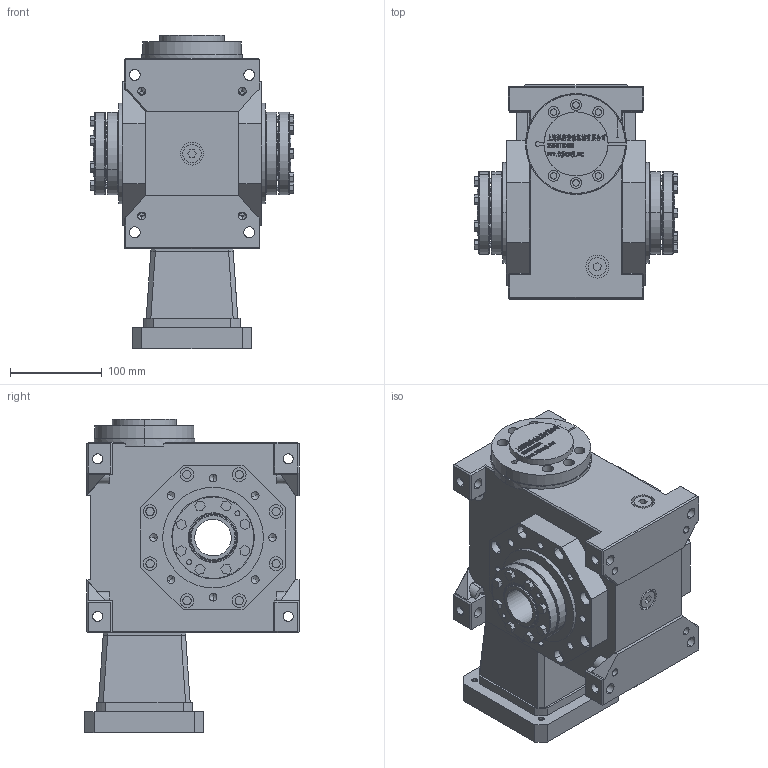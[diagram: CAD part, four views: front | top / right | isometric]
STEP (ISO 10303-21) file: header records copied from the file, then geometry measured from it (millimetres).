
FILE_DESCRIPTION (( 'STEP AP203' ), '1' );
FILE_NAME ('FXLB075-(5~90)-2C-22-110-145-M8.step', '2022-11-06T06:03:08', ( '' ), ( '' ), 'SwSTEP 2.0', 'SolidWorks 2020', '' );
FILE_SCHEMA (( 'CONFIG_CONTROL_DESIGN' ));
Length unit declared in the file: millimetre
Products named in the file (9): ST130-110-145-M8____________.step; JDLB075-C1______-50-90-25.step; JDLB075-2C________40.step; JDLB075-CR____.step; FXLB075-(5~90)-2C-22-110-145-M8.step; FXLB075-(5~90)-2C-22-110-145-M8; ______BD68-73.3-24-22____.step; JDLB075-ST105________1.step; 錨璃230^FXLB075-(5~90)-2C-22-110-145-M8
Assembly tree (9 placements, depth 3):
  FXLB075-(5~90)-2C-22-110-145-M8
    FXLB075-(5~90)-2C-22-110-145-M8.step
      JDLB075-CR____.step
      JDLB075-2C________40.step
      JDLB075-ST105________1.step
      ST130-110-145-M8____________.step
      ______BD68-73.3-24-22____.step
      JDLB075-C1______-50-90-25.step  x2
    錨璃230^FXLB075-(5~90)-2C-22-110-145-M8
Bounding box: 222 x 234 x 342.2 mm (x, y, z)
Volume: 7155216.3 mm3; surface area: 694211 mm2
Topology: 88 solids, 88 shells, 2982 faces, 7689 edges, 5014 vertices
Faces by surface type: plane 1699, bspline 572, cylinder 541, cone 118, torus 52
Entity records: 117361 total; most frequent: CARTESIAN_POINT 50155, ORIENTED_EDGE 14610, DIRECTION 11747, EDGE_CURVE 7305, VECTOR 4941, LINE 4941, VERTEX_POINT 4804, AXIS2_PLACEMENT_3D 3403
